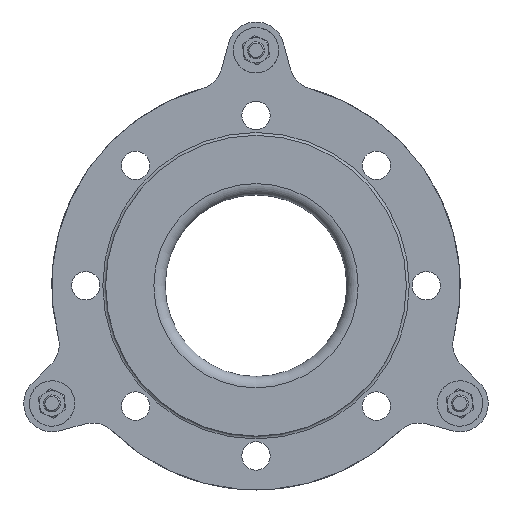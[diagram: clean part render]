
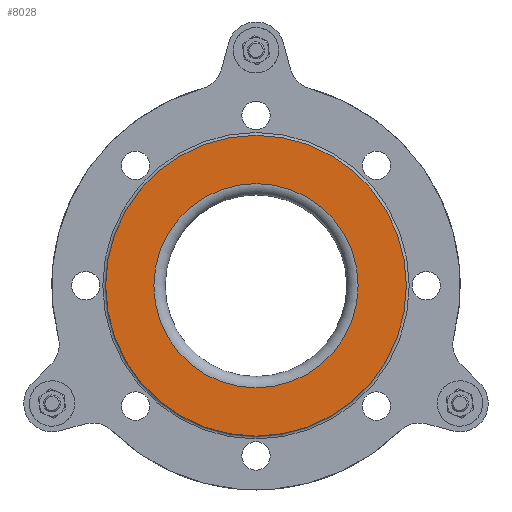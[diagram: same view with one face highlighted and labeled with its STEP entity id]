
A CAD part, front view. The second image highlights one B-rep face of the part: STEP entity #8028.
In plain terms, the highlighted planar face has unit normal (0, -1, 0).
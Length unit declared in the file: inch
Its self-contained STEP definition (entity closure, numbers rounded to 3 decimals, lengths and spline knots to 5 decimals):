
#1885=FACE_BOUND('',#2965,.T.);
#2265=FACE_OUTER_BOUND('',#2964,.T.);
#2964=EDGE_LOOP('',(#6805));
#2965=EDGE_LOOP('',(#6806));
#3485=CIRCLE('',#8828,3.3125);
#3522=CIRCLE('',#8903,2.25);
#4086=VERTEX_POINT('',#13741);
#4123=VERTEX_POINT('',#13853);
#4999=EDGE_CURVE('',#4086,#4086,#3485,.T.);
#5036=EDGE_CURVE('',#4123,#4123,#3522,.T.);
#6805=ORIENTED_EDGE('',*,*,#4999,.F.);
#6806=ORIENTED_EDGE('',*,*,#5036,.T.);
#7614=PLANE('',#8904);
#8028=ADVANCED_FACE('',(#2265,#1885),#7614,.T.);
#8828=AXIS2_PLACEMENT_3D('',#13742,#10594,#10595);
#8903=AXIS2_PLACEMENT_3D('',#13854,#10744,#10745);
#8904=AXIS2_PLACEMENT_3D('',#13855,#10746,#10747);
#10594=DIRECTION('center_axis',(0.,1.,0.));
#10595=DIRECTION('ref_axis',(1.,0.,0.));
#10744=DIRECTION('center_axis',(0.,1.,0.));
#10745=DIRECTION('ref_axis',(1.,0.,0.));
#10746=DIRECTION('center_axis',(0.,-1.,0.));
#10747=DIRECTION('ref_axis',(-1.,0.,0.));
#13741=CARTESIAN_POINT('',(3.51654,-3.8125,-3.3125));
#13742=CARTESIAN_POINT('Origin',(3.51654,-3.8125,0.));
#13853=CARTESIAN_POINT('',(3.51654,-3.8125,-2.25));
#13854=CARTESIAN_POINT('Origin',(3.51654,-3.8125,0.));
#13855=CARTESIAN_POINT('Origin',(3.51654,-3.8125,-3.3125));
